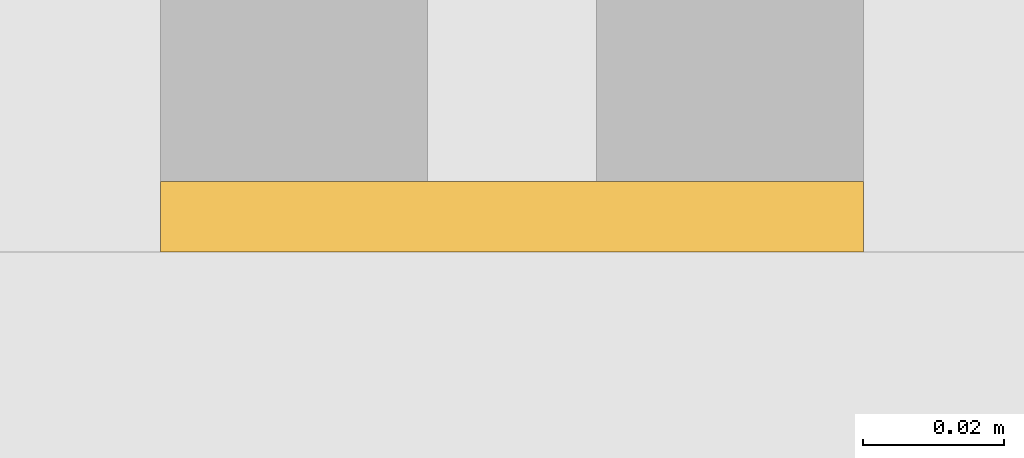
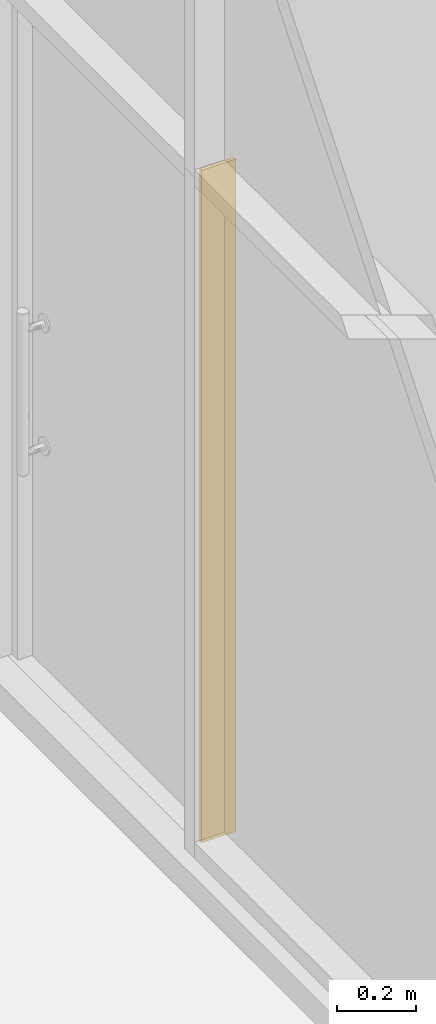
# One storey, part 70 of 100: 1 curtain wall, 1 opening, 1 element without a shape of its own.
"""IFC2X3 building model written with IfcOpenShell, lengths in millimetres."""

from ifc_helpers import new_model, entity, si_unit, converted_unit, derived_unit, direction, frame, frame_2d, origin, place, context, subcontext, project, spatial, rectangle, extrude, material, layer, layer_set, layer_usage, type_object, element, aggregate, save


model = new_model("IFC2X3")

# Units and contexts
model_context = context("Model", 3, precision=0.01, world=origin(), true_north=direction((6.123031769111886e-17, 1.0)))
body_context = subcontext(model_context, "Body", "Model", "MODEL_VIEW")
ifc_project = project(units=[si_unit("LENGTHUNIT", "METRE", prefix="MILLI"), si_unit("AREAUNIT", "SQUARE_METRE"), si_unit("VOLUMEUNIT", "CUBIC_METRE"), converted_unit("PLANEANGLEUNIT", "DEGREE", entity("IfcRatioMeasure", 0.017453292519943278), si_unit("PLANEANGLEUNIT", "RADIAN"), dimensions=[0, 0, 0, 0, 0, 0, 0]), si_unit("MASSUNIT", "GRAM", prefix="KILO"), derived_unit("MASSDENSITYUNIT", [(si_unit("MASSUNIT", "GRAM", prefix="KILO"), 1), (si_unit("LENGTHUNIT", "METRE"), -3)]), derived_unit("MOMENTOFINERTIAUNIT", [(si_unit("LENGTHUNIT", "METRE"), 4)]), si_unit("TIMEUNIT", "SECOND"), si_unit("FREQUENCYUNIT", "HERTZ"), si_unit("THERMODYNAMICTEMPERATUREUNIT", "DEGREE_CELSIUS"), derived_unit("THERMALTRANSMITTANCEUNIT", [(si_unit("MASSUNIT", "GRAM", prefix="KILO"), 1), (si_unit("THERMODYNAMICTEMPERATUREUNIT", "KELVIN"), -1), (si_unit("TIMEUNIT", "SECOND"), -3)]), derived_unit("VOLUMETRICFLOWRATEUNIT", [(si_unit("LENGTHUNIT", "METRE"), 3), (si_unit("TIMEUNIT", "SECOND"), -1)]), derived_unit("MASSFLOWRATEUNIT", [(si_unit("MASSUNIT", "GRAM", prefix="KILO"), 1), (si_unit("TIMEUNIT", "SECOND"), -1)]), derived_unit("ROTATIONALFREQUENCYUNIT", [(si_unit("TIMEUNIT", "SECOND"), -1)]), si_unit("ELECTRICCURRENTUNIT", "AMPERE"), si_unit("ELECTRICVOLTAGEUNIT", "VOLT"), si_unit("POWERUNIT", "WATT"), si_unit("FORCEUNIT", "NEWTON", prefix="KILO"), si_unit("ILLUMINANCEUNIT", "LUX"), si_unit("LUMINOUSFLUXUNIT", "LUMEN"), si_unit("LUMINOUSINTENSITYUNIT", "CANDELA"), derived_unit("USERDEFINED", [(si_unit("MASSUNIT", "GRAM", prefix="KILO"), -1), (si_unit("LENGTHUNIT", "METRE"), -2), (si_unit("TIMEUNIT", "SECOND"), 3), (si_unit("LUMINOUSFLUXUNIT", "LUMEN"), 1)]), derived_unit("SOUNDPOWERUNIT", [(si_unit("MASSUNIT", "GRAM", prefix="KILO"), 1), (si_unit("LENGTHUNIT", "METRE"), 2), (si_unit("TIMEUNIT", "SECOND"), -3)]), derived_unit("SOUNDPRESSUREUNIT", [(si_unit("MASSUNIT", "GRAM", prefix="KILO"), 1), (si_unit("LENGTHUNIT", "METRE"), -1), (si_unit("TIMEUNIT", "SECOND"), -2)]), derived_unit("LINEARVELOCITYUNIT", [(si_unit("LENGTHUNIT", "METRE"), 1), (si_unit("TIMEUNIT", "SECOND"), -1)]), si_unit("PRESSUREUNIT", "PASCAL"), derived_unit("USERDEFINED", [(si_unit("LENGTHUNIT", "METRE"), -2), (si_unit("MASSUNIT", "GRAM", prefix="KILO"), 1), (si_unit("TIMEUNIT", "SECOND"), -2)]), derived_unit("LINEARFORCEUNIT", [(si_unit("MASSUNIT", "GRAM", prefix="KILO"), 1), (si_unit("LENGTHUNIT", "METRE"), 1), (si_unit("TIMEUNIT", "SECOND"), -2), (si_unit("LENGTHUNIT", "METRE"), -1)]), derived_unit("PLANARFORCEUNIT", [(si_unit("MASSUNIT", "GRAM", prefix="KILO"), 1), (si_unit("LENGTHUNIT", "METRE"), 1), (si_unit("TIMEUNIT", "SECOND"), -2), (si_unit("LENGTHUNIT", "METRE"), -2)])], contexts=[model_context])

# Site, building, storey
site_placement = place(None, frame((-14167.972527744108, -657.2125860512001, 0.0)))
site = spatial("IfcSite", under=ifc_project, at=site_placement, Name="Default", CompositionType="ELEMENT")
building_placement = place(site_placement, origin())
building = spatial("IfcBuilding", under=site, at=building_placement, Name="Sample Building", CompositionType="ELEMENT")
storey_placement = place(building_placement, origin())
storey = spatial("IfcBuildingStorey", under=building, at=storey_placement, Name="지상 1층", CompositionType="ELEMENT", Elevation=0.0)

# Curtain walls, opening
curtain_wall_type_1 = type_object("IfcCurtainWallType", Name="커튼월:CW112-스테인리스 스틸 커튼월", PredefinedType="NOTDEFINED")
curtain_wall_1_placement = place(storey_placement, origin())
curtain_wall_1 = element("IfcCurtainWall", 1, at=curtain_wall_1_placement, inside=storey, type_object=curtain_wall_type_1, Name="커튼월:CW112-스테인리스 스틸 커튼월", ObjectType="커튼월:CW112-스테인리스 스틸 커튼월")
ifc_material = material(Name="KBIMS-콘크리트")
ifc_layer = layer(ifc_material, 100.0)
ifc_layer_set = layer_set([ifc_layer], Name="커튼월:CW112-스테인리스 스틸 커튼월")
ifc_layer_usage = layer_usage(ifc_layer_set, "AXIS2", "NEGATIVE", 50.0)
curtain_wall_type_2 = type_object("IfcCurtainWallType", Name="기본 벽:WA111-철근콘크리트구조 벽 100mm", PredefinedType="NOTDEFINED", material=ifc_layer_set)
curtain_wall_2_placement = place(storey_placement, frame((14129.839654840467, 7842.177624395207, 80.0), z_axis=(0.0, 0.0, 1.0), x_axis=(0.0, -1.0, 0.0)))
curtain_wall_2 = element("IfcCurtainWall", 2, at=curtain_wall_2_placement, type_object=curtain_wall_type_2, material=ifc_layer_usage, Name="기본 벽:WA111-철근콘크리트구조 벽 100mm", ObjectType="기본 벽:WA111-철근콘크리트구조 벽 100mm", context=body_context, shape_type="SweptSolid", body=[
    extrude(rectangle(XDim=10.00000000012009, YDim=100.00000000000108, at=frame_2d((5.417888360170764e-13, -1.0835776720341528e-12), x_axis=(1.0, 0.0))), frame((5.0, 0.0, 0.0), z_axis=(0.0, 0.0, 1.0), x_axis=(-1.0, 0.0, 0.0)), (0.0, 0.0, 1.0), 2075.0),
])
opening_placement = place(curtain_wall_2_placement, frame((-950.0, -50.0, -25.0)))
element("IfcOpeningElement", 3, at=opening_placement, cuts=curtain_wall_2, Name="DR111-외여닫이문(철재, 일반, 양개):DR111-외여닫이문(유리, 일반, 양개) 950x2100mm:1", ObjectType="Opening", context=body_context, shape_type="SweptSolid", body=[
    extrude(rectangle(XDim=2099.9999999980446, YDim=949.9999999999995, at=frame_2d((1049.9999999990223, 474.9999999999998), x_axis=(1.0, 0.0))), frame((0.0, 0.0, 0.0), z_axis=(0.0, 1.0, 0.0), x_axis=(0.0, 0.0, 1.0)), (0.0, 0.0, 1.0), 100.0),
])
aggregate(curtain_wall_1, [curtain_wall_2])

save(model, "model.ifc")
